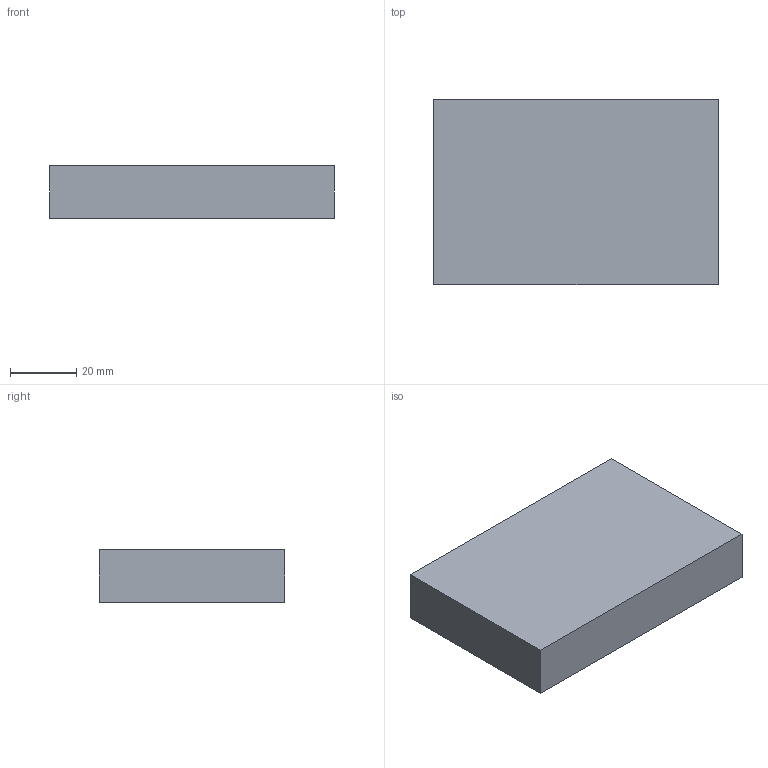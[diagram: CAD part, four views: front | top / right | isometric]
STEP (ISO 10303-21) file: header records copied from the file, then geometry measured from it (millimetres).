
FILE_DESCRIPTION(('Open CASCADE Model'),'2;1');
FILE_NAME('Open CASCADE Shape Model','2026-10-10T15:34:57',('Author'),( 'Open CASCADE'),'Open CASCADE STEP processor 7.9','Open CASCADE 7.9' ,'Unknown');
FILE_SCHEMA(('AUTOMOTIVE_DESIGN { 1 0 10303 214 1 1 1 1 }'));
Length unit declared in the file: millimetre
Products named in the file (1): Open CASCADE STEP translator 7.9 10
Bounding box: 86 x 56 x 16 mm (x, y, z)
Volume: 77056 mm3; surface area: 14176 mm2
Topology: 1 solids, 1 shells, 6 faces, 12 edges, 8 vertices
Faces by surface type: plane 6
Entity records: 322 total; most frequent: CARTESIAN_POINT 51, DIRECTION 50, LINE 36, VECTOR 36, ORIENTED_EDGE 24, PCURVE 24, DEFINITIONAL_REPRESENTATION 24, EDGE_CURVE 12
